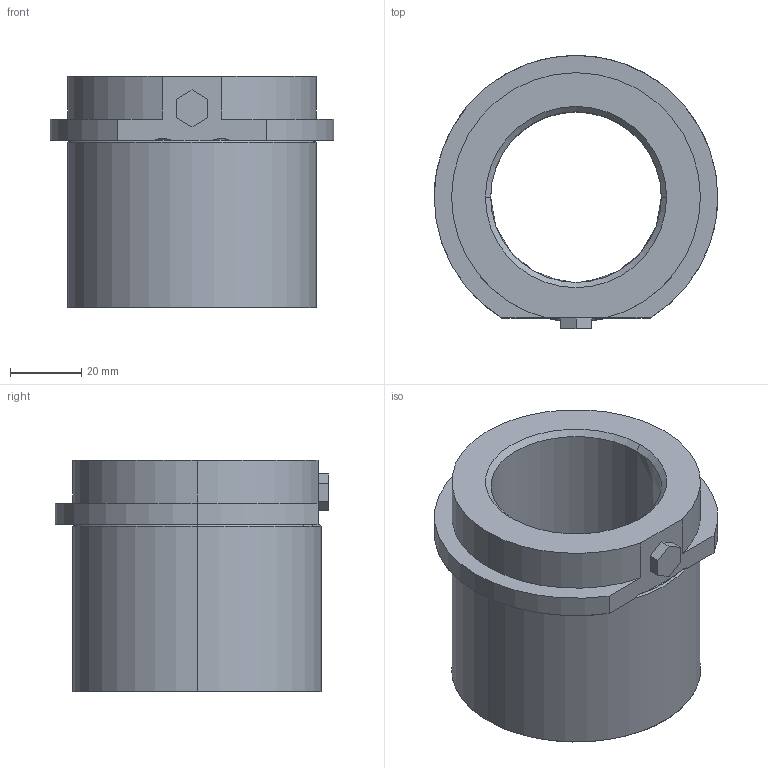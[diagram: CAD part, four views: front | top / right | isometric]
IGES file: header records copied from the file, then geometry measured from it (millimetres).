
Start section: START RECORD GO HERE.
Global section: file name: 740-48.igs; native system: DASSAULT SYSTEMES CATIA V5 R20 - www.3ds.com; preprocessor: CATIA Version 5 Release 20 ; author: Utente; organization: NB04-ASUS; date: 20210118.203204; units: millimetre
Bounding box: 79.8 x 76.9 x 65 mm (x, y, z)
Surface area: 30633.6 mm2 (no closed solid volume)
Topology: 0 solids, 0 shells, 35 faces, 176 edges, 176 vertices
Faces by surface type: revolution 21, plane 14
